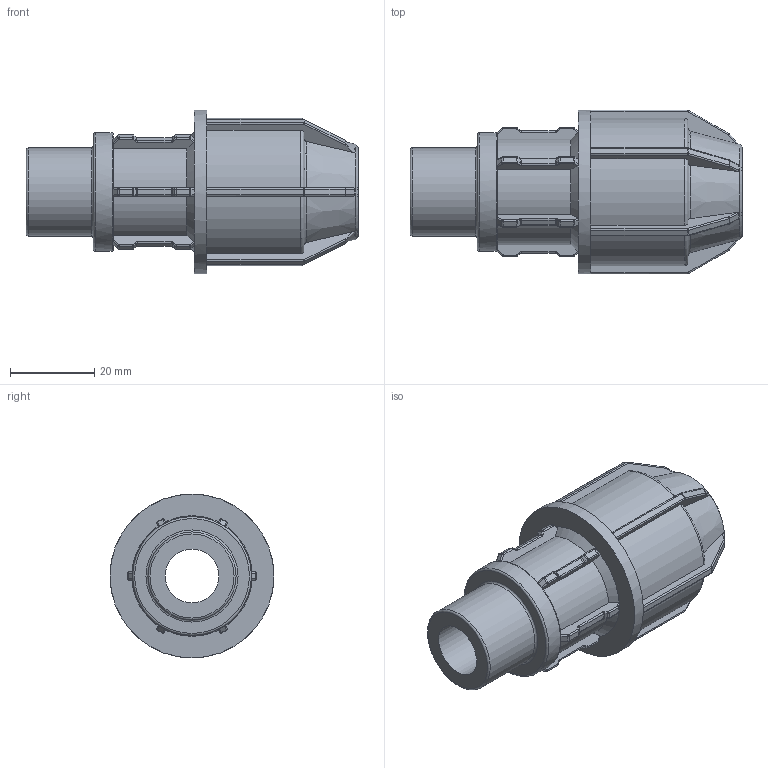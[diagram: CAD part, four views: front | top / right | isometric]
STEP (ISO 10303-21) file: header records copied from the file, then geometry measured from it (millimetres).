
FILE_DESCRIPTION(/* description */ ('PLASSON L.14 MALE ADAPTOR (SILVER) 16-1/2'''''),/* implementation_level */ '2;1');
FILE_NAME(/* name */ 'C:\Dropbox\KIMPROJECTS-Inventor\99-16-3568-Processing\Silver+MF ISRAEL\140200\140200016005.ipt.stp',/* time_stamp */ '2018-04-09T13:02:27+03:00',/* author */ ('KIM'),/* organization */ (''),/* preprocessor_version */ 'ST-DEVELOPER v15.6',/* originating_system */ 'Autodesk Inventor 2015',/* authorisation */ '');
FILE_SCHEMA (('AUTOMOTIVE_DESIGN { 1 0 10303 214 3 1 1 }'));
Length unit declared in the file: millimetre
Products named in the file (1): 140200016005
Bounding box: 79 x 39 x 39 mm (x, y, z)
Volume: 37797.6 mm3; surface area: 14120.9 mm2
Topology: 1 solids, 1 shells, 465 faces, 1138 edges, 674 vertices
Faces by surface type: cylinder 186, plane 158, bspline 72, torus 41, cone 8
Full cylindrical faces by diameter (mm): 12.8 x1, 16 x2, 20.955 x1, 28.289 x1, 39 x1
Entity records: 14264 total; most frequent: CARTESIAN_POINT 3657, DIRECTION 2302, ORIENTED_EDGE 2218, EDGE_CURVE 1109, AXIS2_PLACEMENT_3D 926, VERTEX_POINT 665, CIRCLE 503, EDGE_LOOP 484
